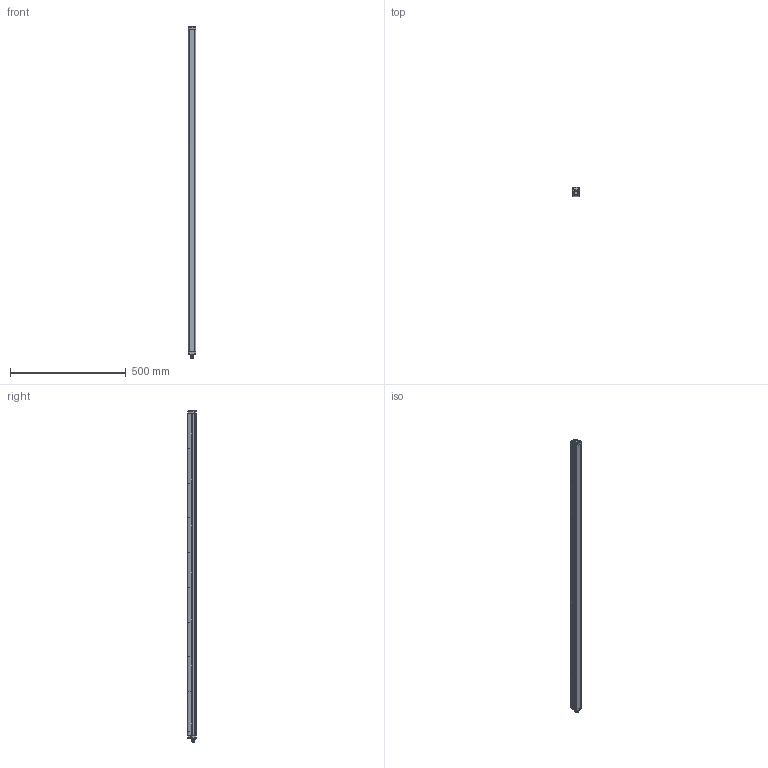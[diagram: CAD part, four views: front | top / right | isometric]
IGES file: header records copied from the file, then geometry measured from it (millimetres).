
Global section: file name: D:\Studi\DSD-0153.igs; preprocessor: I-DEAS 3D IGES Translator 11; date: 20080609.122339; units: millimetre
Bounding box: 32.3 x 36.9 x 1433.24 mm (x, y, z)
Volume: 1436430.9 mm3; surface area: 333677.4 mm2
Topology: 12 solids, 12 shells, 1626 faces, 6349 edges, 5192 vertices
Faces by surface type: bspline 1626
